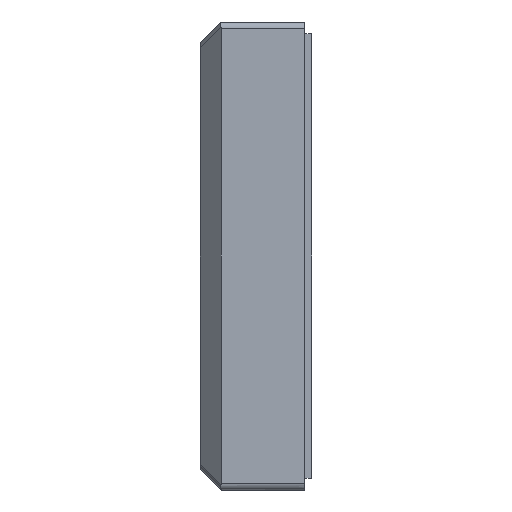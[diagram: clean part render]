
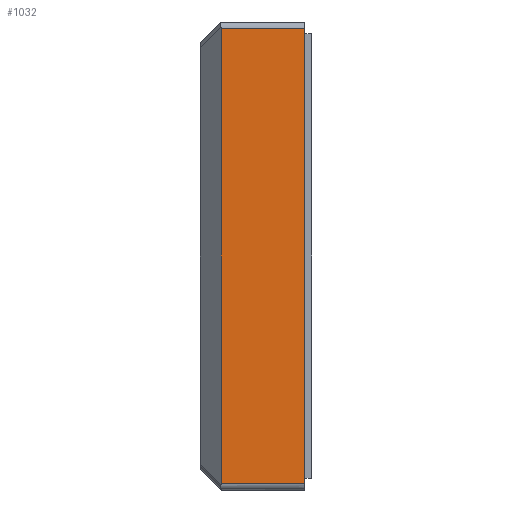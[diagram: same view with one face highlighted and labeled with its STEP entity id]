
A CAD part, left-side view. The second image highlights one B-rep face of the part: STEP entity #1032.
In plain terms, the highlighted planar face has unit normal (-1, 0, 0).
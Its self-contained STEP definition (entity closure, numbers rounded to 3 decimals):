
#197 = EDGE_LOOP ( 'NONE', ( #4304, #459, #3982, #4552 ) ) ;
#324 = CARTESIAN_POINT ( 'NONE',  ( -62.75, 15., 32.65 ) ) ;
#459 = ORIENTED_EDGE ( 'NONE', *, *, #635, .T. ) ;
#635 = EDGE_CURVE ( 'NONE', #4579, #651, #1351, .T. ) ;
#651 = VERTEX_POINT ( 'NONE', #2916 ) ;
#836 = EDGE_CURVE ( 'NONE', #1640, #4023, #4944, .T. ) ;
#949 = AXIS2_PLACEMENT_3D ( 'NONE', #4473, #2790, #2400 ) ;
#1032 = ADVANCED_FACE ( 'NONE', ( #4006 ), #2912, .F. ) ;
#1217 = DIRECTION ( 'NONE',  ( 0., 0., 1. ) ) ;
#1351 = LINE ( 'NONE', #4171, #4797 ) ;
#1534 = DIRECTION ( 'NONE',  ( 0., 0., -1. ) ) ;
#1556 = CARTESIAN_POINT ( 'NONE',  ( -62.75, 0., 32.65 ) ) ;
#1640 = VERTEX_POINT ( 'NONE', #1556 ) ;
#2085 = VECTOR ( 'NONE', #1534, 1000. ) ;
#2146 = CARTESIAN_POINT ( 'NONE',  ( -62.75, 12., 32.65 ) ) ;
#2400 = DIRECTION ( 'NONE',  ( 0., 0., -1. ) ) ;
#2431 = DIRECTION ( 'NONE',  ( 0., 1., 0. ) ) ;
#2573 = VECTOR ( 'NONE', #1217, 1000. ) ;
#2790 = DIRECTION ( 'NONE',  ( 1., 0., 0. ) ) ;
#2912 = PLANE ( 'NONE',  #949 ) ;
#2916 = CARTESIAN_POINT ( 'NONE',  ( -62.75, 0., -32.65 ) ) ;
#2917 = LINE ( 'NONE', #4010, #2085 ) ;
#2967 = VECTOR ( 'NONE', #2431, 1000. ) ;
#3324 = EDGE_CURVE ( 'NONE', #651, #1640, #4785, .T. ) ;
#3982 = ORIENTED_EDGE ( 'NONE', *, *, #3324, .T. ) ;
#4006 = FACE_OUTER_BOUND ( 'NONE', #197, .T. ) ;
#4010 = CARTESIAN_POINT ( 'NONE',  ( -62.75, 12., -33.65 ) ) ;
#4023 = VERTEX_POINT ( 'NONE', #2146 ) ;
#4171 = CARTESIAN_POINT ( 'NONE',  ( -62.75, 15., -32.65 ) ) ;
#4304 = ORIENTED_EDGE ( 'NONE', *, *, #5158, .T. ) ;
#4473 = CARTESIAN_POINT ( 'NONE',  ( -62.75, 15., -33.65 ) ) ;
#4552 = ORIENTED_EDGE ( 'NONE', *, *, #836, .T. ) ;
#4579 = VERTEX_POINT ( 'NONE', #5373 ) ;
#4695 = DIRECTION ( 'NONE',  ( 0., -1., 0. ) ) ;
#4785 = LINE ( 'NONE', #5339, #2573 ) ;
#4797 = VECTOR ( 'NONE', #4695, 1000. ) ;
#4944 = LINE ( 'NONE', #324, #2967 ) ;
#5158 = EDGE_CURVE ( 'NONE', #4023, #4579, #2917, .T. ) ;
#5339 = CARTESIAN_POINT ( 'NONE',  ( -62.75, 0., -33.65 ) ) ;
#5373 = CARTESIAN_POINT ( 'NONE',  ( -62.75, 12., -32.65 ) ) ;
